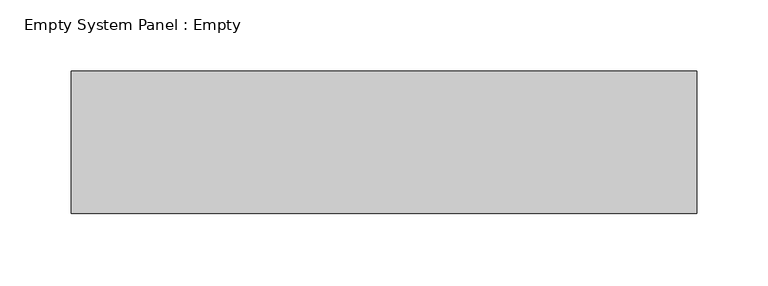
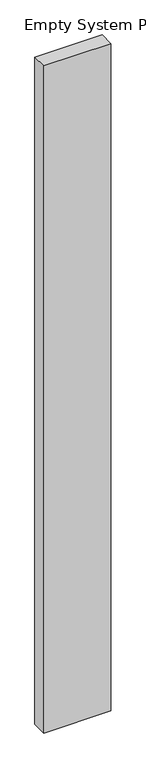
"""IFC4 building model written with IfcOpenShell, lengths in millimetres: plate geometry, Empty System Panel : Empty."""

import ifcopenshell
import ifcopenshell.guid

model = None  # the IFC model being written
_history = None  # IfcOwnerHistory: only IFC2X3 demands one
_inside = {}  # id of a spatial element -> (the spatial element, [elements in it])
_under = {}  # id of a project, library or spatial element -> (it, [spatial elements below it])
_declared = {}  # id of a project -> (the project, [libraries it declares])
_typed = {}  # id of a type object -> (the type object, [elements of that type])
_made_of = {}  # id of a material, layer set ... -> (it, [elements and type objects made of it])


def new_model(schema):
    """Start an empty IFC model of exactly this schema.

    Asked for "IFC4X3", IfcOpenShell would pick the latest addendum, in which some entities
    have other attributes; the version numbers below select the first issue.
    IFC2X3 requires an IfcOwnerHistory on every rooted entity: one is made here for all.
    """
    global model, _history
    if schema == "IFC4X3":
        model = ifcopenshell.file(schema_version=(4, 3, 0, 0))
    else:
        model = ifcopenshell.file(schema=schema)
    _inside.clear()
    _under.clear()
    _declared.clear()
    _typed.clear()
    _made_of.clear()
    _history = None
    if model.schema == "IFC2X3":
        org = make("IfcOrganization", Name="unknown")
        user = make(
            "IfcPersonAndOrganization",
            ThePerson=make("IfcPerson", FamilyName="unknown"),
            TheOrganization=org,
        )
        app = make(
            "IfcApplication",
            ApplicationDeveloper=org,
            Version="unknown",
            ApplicationFullName="unknown",
            ApplicationIdentifier="unknown",
        )
        _history = make(
            "IfcOwnerHistory",
            OwningUser=user,
            OwningApplication=app,
            ChangeAction="ADDED",
            CreationDate=0,
        )
    return model


def make(cls, **values):
    """One entity of the class cls with the attributes given. An attribute that is None is left unset."""
    return model.create_entity(
        cls, **{name: value for name, value in values.items() if value is not None}
    )


def rooted(cls, **values):
    """An entity with a GlobalId (a new one), such as an element, a storey or a relation."""
    return make(cls, GlobalId=ifcopenshell.guid.new(), OwnerHistory=_history, **values)


def si_unit(unit_type, name, prefix=None):
    """IfcSIUnit, for example si_unit("LENGTHUNIT", "METRE", prefix="MILLI")."""
    return make("IfcSIUnit", UnitType=unit_type, Prefix=prefix, Name=name)


def assignment(units):
    """IfcUnitAssignment: the units of a project."""
    return None if units is None else make("IfcUnitAssignment", Units=units)


def point(xyz):
    """IfcCartesianPoint."""
    return None if xyz is None else make("IfcCartesianPoint", Coordinates=xyz)


def direction(xyz):
    """IfcDirection."""
    return None if xyz is None else make("IfcDirection", DirectionRatios=xyz)


def frame(location, z_axis=None, x_axis=None):
    """IfcAxis2Placement3D, a coordinate frame: its origin and axes. An axis left out is left unset."""
    return make(
        "IfcAxis2Placement3D",
        Location=point(location),
        Axis=direction(z_axis),
        RefDirection=direction(x_axis),
    )


def origin():
    """The frame at (0, 0, 0) with its axes left unset."""
    return frame((0.0, 0.0, 0.0))


def place(relative_to, where):
    """IfcLocalPlacement: puts the frame where relative to a parent placement (None: the world)."""
    return make(
        "IfcLocalPlacement", PlacementRelTo=relative_to, RelativePlacement=where
    )


def context(
    kind, dimensions, precision=None, world=None, true_north=None, identifier=None
):
    """IfcGeometricRepresentationContext, for example the 3D "Model" context."""
    return make(
        "IfcGeometricRepresentationContext",
        ContextIdentifier=identifier,
        ContextType=kind,
        CoordinateSpaceDimension=dimensions,
        Precision=precision,
        WorldCoordinateSystem=world,
        TrueNorth=true_north,
    )


def project(units=None, contexts=None):
    """IfcProject with its units and contexts."""
    return rooted(
        "IfcProject",
        Name="project",
        RepresentationContexts=contexts,
        UnitsInContext=assignment(units),
    )


def spatial(cls, under=None, at=None, **own):
    """A site, building, storey or space (cls), placed at a placement, below another one or the project."""
    s = rooted(cls, ObjectPlacement=at, **own)
    if under is not None:
        _under.setdefault(under.id(), (under, []))[1].append(s)
    return s


def polyline(points):
    """IfcPolyline through the points."""
    return make("IfcPolyline", Points=[point(p) for p in points])


def outline(outer, holes=None, kind="AREA"):
    """IfcArbitraryClosedProfileDef: a profile drawn as a closed curve; with holes, ...WithVoids."""
    if holes is None:
        return make("IfcArbitraryClosedProfileDef", ProfileType=kind, OuterCurve=outer)
    return make(
        "IfcArbitraryProfileDefWithVoids",
        ProfileType=kind,
        OuterCurve=outer,
        InnerCurves=holes,
    )


def extrude(swept, where, along, depth):
    """IfcExtrudedAreaSolid: the profile swept, set in the frame where, extruded along a direction by depth."""
    return make(
        "IfcExtrudedAreaSolid",
        SweptArea=swept,
        Position=where,
        ExtrudedDirection=direction(along),
        Depth=depth,
    )


def shape(context_of_items, identifier, shape_type, items):
    """IfcShapeRepresentation: the items that make up one representation, for example the "Body"."""
    return make(
        "IfcShapeRepresentation",
        ContextOfItems=context_of_items,
        RepresentationIdentifier=identifier,
        RepresentationType=shape_type,
        Items=items,
    )


def source(mapping_origin, context_of_items, identifier, shape_type, items):
    """IfcRepresentationMap: a shape defined once, which mapped items show again and again."""
    return make(
        "IfcRepresentationMap",
        MappingOrigin=mapping_origin,
        MappedRepresentation=shape(context_of_items, identifier, shape_type, items),
    )


def transform(
    local_origin,
    x_axis=None,
    y_axis=None,
    z_axis=None,
    scale=None,
    scale2=None,
    scale3=None,
    uniform=True,
):
    """IfcCartesianTransformationOperator3D, or its non-uniform kind. x_axis, y_axis, z_axis: its Axis1, 2, 3."""
    if uniform:
        return make(
            "IfcCartesianTransformationOperator3D",
            Axis1=direction(x_axis),
            Axis2=direction(y_axis),
            LocalOrigin=point(local_origin),
            Scale=scale,
            Axis3=direction(z_axis),
        )
    return make(
        "IfcCartesianTransformationOperator3DnonUniform",
        Axis1=direction(x_axis),
        Axis2=direction(y_axis),
        LocalOrigin=point(local_origin),
        Scale=scale,
        Axis3=direction(z_axis),
        Scale2=scale2,
        Scale3=scale3,
    )


def mapped(mapping_source, mapping_target):
    """IfcMappedItem: shows the shape of a source again, moved by a transform."""
    return make(
        "IfcMappedItem", MappingSource=mapping_source, MappingTarget=mapping_target
    )


def made_of(thing, what):
    """Note that an element or type object is made of a material, layer set ...; save() writes the relation."""
    if what is not None:
        _made_of.setdefault(what.id(), (what, []))[1].append(thing)
    return thing


def element(
    cls,
    number,
    at=None,
    inside=None,
    cuts=None,
    type_object=None,
    material=None,
    context=None,
    identifier="Body",
    shape_type=None,
    held_by="IfcProductDefinitionShape",
    body=None,
    shapes=None,
    **own,
):
    """One element of the class cls, such as IfcWall. Its Tag is "e" and its number.

    at: its placement. inside: the storey or other place that contains it. cuts: it is an
    opening in that element (IfcRelVoidsElement). A single representation is given by context,
    identifier, shape_type and body (its items); several are given by shapes. held_by: the class
    of the entity that holds the representations. save() writes the other relations.
    """
    e = rooted(cls, Tag="e%d" % number, ObjectPlacement=at, **own)
    if body is not None:
        shapes = [shape(context, identifier, shape_type, body)]
    if shapes is not None:
        e.Representation = make(held_by, Representations=shapes)
    if inside is not None:
        _inside.setdefault(inside.id(), (inside, []))[1].append(e)
    if cuts is not None:
        rooted(
            "IfcRelVoidsElement", RelatingBuildingElement=cuts, RelatedOpeningElement=e
        )
    if type_object is not None:
        _typed.setdefault(type_object.id(), (type_object, []))[1].append(e)
    return made_of(e, material)


def aggregate(whole, parts):
    """IfcRelAggregates: a whole, such as a stair, and the parts it consists of."""
    return rooted("IfcRelAggregates", RelatingObject=whole, RelatedObjects=parts)


def save(model, path):
    """Write the relations noted so far, then the file.

    IfcRelAggregates (storeys below a building ...), IfcRelContainedInSpatialStructure (elements
    in a storey), IfcRelDefinesByType, IfcRelAssociatesMaterial and IfcRelDeclares: one each for
    every whole, place, type object, material and project.
    """
    for whole, parts in _under.values():
        aggregate(whole, parts)
    for where, things in _inside.values():
        rooted(
            "IfcRelContainedInSpatialStructure",
            RelatedElements=things,
            RelatingStructure=where,
        )
    for kind, things in _typed.values():
        rooted("IfcRelDefinesByType", RelatedObjects=things, RelatingType=kind)
    for what, things in _made_of.values():
        rooted("IfcRelAssociatesMaterial", RelatedObjects=things, RelatingMaterial=what)
    for by, libraries in _declared.values():
        rooted("IfcRelDeclares", RelatingContext=by, RelatedDefinitions=libraries)
    model.write(path)


def empty_system_panel_empty_60ba83e2(model_context):
    return source(origin(), model_context, "Body", "SweptSolid", [
        extrude(outline(polyline([(0.0, -219.6046705), (0.0, 219.6046705), (1112.3061629, 219.6046705), (4616.070576, 219.6046705), (4616.070576, -219.6046705), (0.0, -219.6046705)])), frame((0.0, -50.0, 0.0), z_axis=(0.0, 1.0, 0.0), x_axis=(0.0, 0.0, 1.0)), (0.0, 0.0, 1.0), 100.0),
    ])


if __name__ == "__main__":
    model = new_model("IFC4")
    model_context = context("Model", 3, world=origin())
    ifc_project = project(units=[si_unit("LENGTHUNIT", "METRE", prefix="MILLI")], contexts=[model_context])
    site = spatial("IfcSite", under=ifc_project)
    building = spatial("IfcBuilding", under=site)
    placement = place(None, origin())
    empty_system_panel_empty_shape = empty_system_panel_empty_60ba83e2(model_context)
    element("IfcPlate", 1, ObjectType="Empty System Panel : Empty", at=placement, inside=building, context=model_context, shape_type="MappedRepresentation", body=[
        mapped(empty_system_panel_empty_shape, transform((0.0, 0.0, 0.0), x_axis=(1.0, 0.0, 0.0), y_axis=(0.0, 1.0, 0.0), z_axis=(0.0, 0.0, 1.0))),
    ])
    save(model, "model.ifc")
